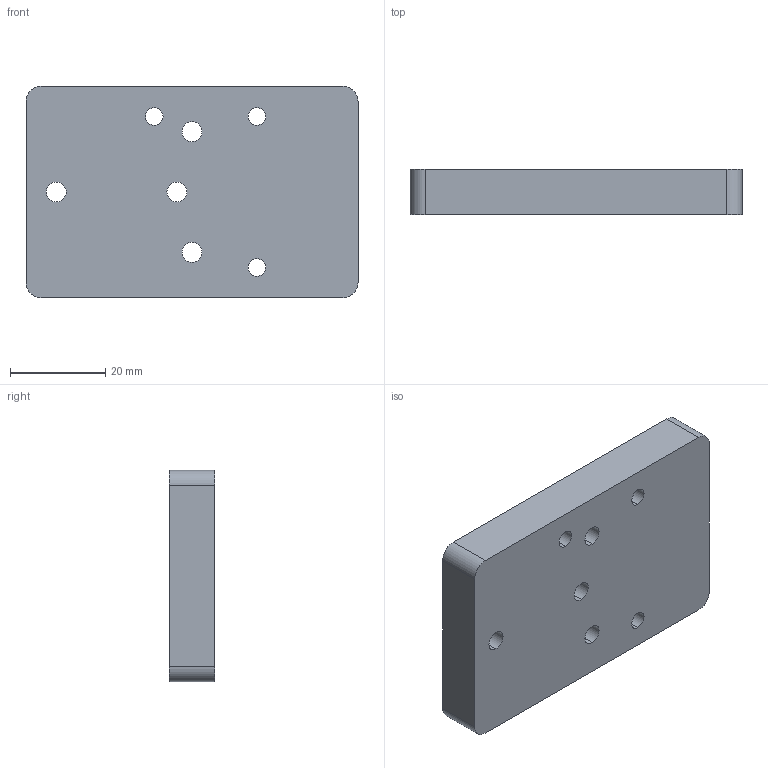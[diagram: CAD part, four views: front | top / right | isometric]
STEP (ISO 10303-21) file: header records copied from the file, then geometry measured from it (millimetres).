
FILE_DESCRIPTION (( 'STEP AP203' ), '1' );
FILE_NAME ('SLM-590XS-M-MINIHAWK.STEP', '2018-08-24T13:23:15', ( 'admin' ), ( '' ), 'SwSTEP 2.0', 'SolidWorks 2018', '' );
FILE_SCHEMA (( 'CONFIG_CONTROL_DESIGN' ));
Length unit declared in the file: inch
Products named in the file (1): SLM-590XS-M-MINIHAWK
Bounding box: 69.85 x 9.53 x 44.45 mm (x, y, z)
Volume: 28439.9 mm3; surface area: 9064.4 mm2
Topology: 1 solids, 1 shells, 49 faces, 129 edges, 86 vertices
Faces by surface type: cylinder 24, plane 24, bspline 1
Entity records: 1672 total; most frequent: CARTESIAN_POINT 306, DIRECTION 273, ORIENTED_EDGE 258, EDGE_CURVE 129, AXIS2_PLACEMENT_3D 97, VERTEX_POINT 86, VECTOR 79, LINE 79
